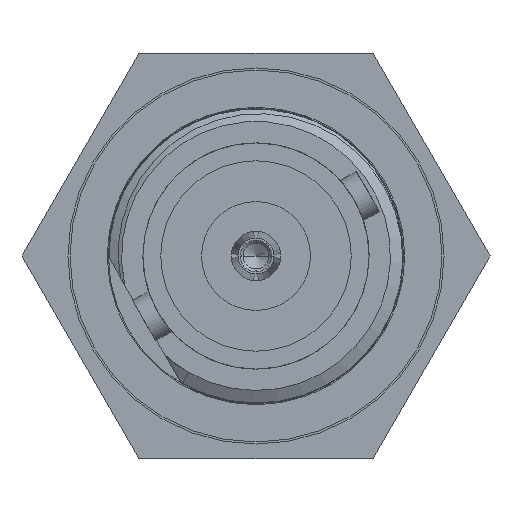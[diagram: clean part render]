
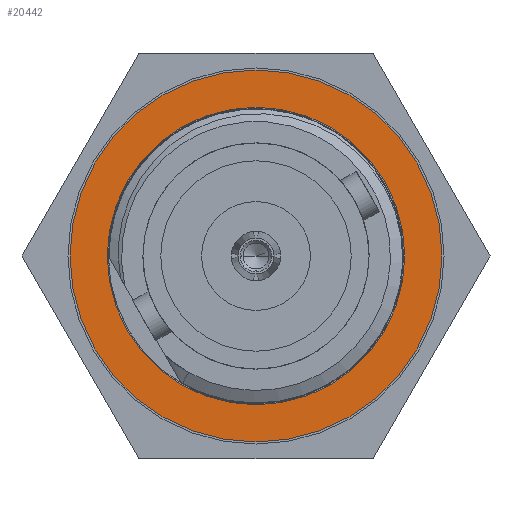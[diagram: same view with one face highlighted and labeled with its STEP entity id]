
A CAD part, front view. The second image highlights one B-rep face of the part: STEP entity #20442.
In plain terms, the highlighted planar face has unit normal (0, -1, 0).
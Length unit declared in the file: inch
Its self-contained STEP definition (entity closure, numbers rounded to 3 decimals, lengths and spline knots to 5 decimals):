
#6490=CARTESIAN_POINT('',(0.,0.,0.));
#6491=DIRECTION('',(0.,1.,0.));
#6492=DIRECTION('',(0.,0.,1.));
#6493=AXIS2_PLACEMENT_3D('',#6490,#6491,#6492);
#6495=CARTESIAN_POINT('',(0.,0.,0.));
#6496=DIRECTION('',(0.,1.,0.));
#6497=DIRECTION('',(0.,0.,-1.));
#6498=AXIS2_PLACEMENT_3D('',#6495,#6496,#6497);
#6500=CARTESIAN_POINT('',(0.,0.,0.));
#6501=DIRECTION('',(0.,-1.,0.));
#6502=DIRECTION('',(0.,0.,1.));
#6503=AXIS2_PLACEMENT_3D('',#6500,#6501,#6502);
#6505=CARTESIAN_POINT('',(0.,0.,0.));
#6506=DIRECTION('',(0.,-1.,0.));
#6507=DIRECTION('',(0.,0.,-1.));
#6508=AXIS2_PLACEMENT_3D('',#6505,#6506,#6507);
#6518=CARTESIAN_POINT('',(0.,0.,0.3125));
#6519=CARTESIAN_POINT('',(0.,0.,-0.3125));
#6520=VERTEX_POINT('',#6518);
#6521=VERTEX_POINT('',#6519);
#6522=CARTESIAN_POINT('',(0.,0.,0.25));
#6523=CARTESIAN_POINT('',(0.,0.,-0.25));
#6524=VERTEX_POINT('',#6522);
#6525=VERTEX_POINT('',#6523);
#20427=CARTESIAN_POINT('',(0.,0.,0.));
#20428=DIRECTION('',(0.,1.,0.));
#20429=DIRECTION('',(0.,0.,1.));
#20430=AXIS2_PLACEMENT_3D('',#20427,#20428,#20429);
#20431=PLANE('',#20430);
#20432=ORIENTED_EDGE('',*,*,#20407,.T.);
#20433=ORIENTED_EDGE('',*,*,#20421,.T.);
#20434=EDGE_LOOP('',(#20432,#20433));
#20435=FACE_OUTER_BOUND('',#20434,.F.);
#20437=ORIENTED_EDGE('',*,*,#20436,.T.);
#20439=ORIENTED_EDGE('',*,*,#20438,.T.);
#20440=EDGE_LOOP('',(#20437,#20439));
#20441=FACE_BOUND('',#20440,.F.);
#20442=ADVANCED_FACE('',(#20435,#20441),#20431,.F.);
#6494=CIRCLE('',#6493,0.3125);
#6499=CIRCLE('',#6498,0.3125);
#6504=CIRCLE('',#6503,0.25);
#6509=CIRCLE('',#6508,0.25);
#20407=EDGE_CURVE('',#6520,#6521,#6494,.T.);
#20421=EDGE_CURVE('',#6521,#6520,#6499,.T.);
#20436=EDGE_CURVE('',#6524,#6525,#6504,.T.);
#20438=EDGE_CURVE('',#6525,#6524,#6509,.T.);
